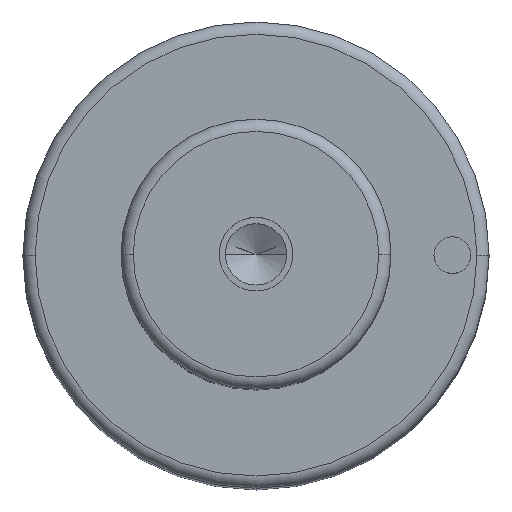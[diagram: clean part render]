
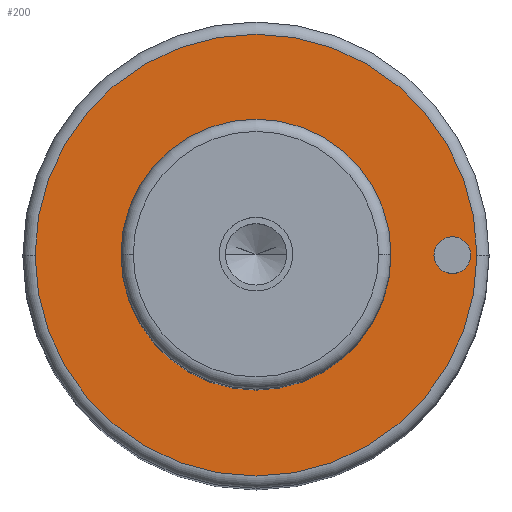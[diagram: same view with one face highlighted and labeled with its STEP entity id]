
A CAD part, top view. The second image highlights one B-rep face of the part: STEP entity #200.
In plain terms, the highlighted planar face has unit normal (0, 0, 1).
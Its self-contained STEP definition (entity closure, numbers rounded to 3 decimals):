
#99=PLANE('',#596);
#107=FACE_BOUND('',#265,.T.);
#108=FACE_BOUND('',#266,.T.);
#109=FACE_BOUND('',#267,.T.);
#200=ADVANCED_FACE('',(#107,#108,#109),#99,.T.);
#265=EDGE_LOOP('',(#359,#360));
#266=EDGE_LOOP('',(#361,#362));
#267=EDGE_LOOP('',(#363,#364));
#359=ORIENTED_EDGE('',*,*,#460,.F.);
#360=ORIENTED_EDGE('',*,*,#461,.F.);
#361=ORIENTED_EDGE('',*,*,#485,.F.);
#362=ORIENTED_EDGE('',*,*,#486,.F.);
#363=ORIENTED_EDGE('',*,*,#456,.T.);
#364=ORIENTED_EDGE('',*,*,#454,.T.);
#411=VERTEX_POINT('',#808);
#412=VERTEX_POINT('',#810);
#413=VERTEX_POINT('',#816);
#416=VERTEX_POINT('',#821);
#430=VERTEX_POINT('',#875);
#431=VERTEX_POINT('',#876);
#454=EDGE_CURVE('',#412,#411,#513,.T.);
#456=EDGE_CURVE('',#411,#412,#514,.T.);
#460=EDGE_CURVE('',#416,#413,#518,.T.);
#461=EDGE_CURVE('',#413,#416,#519,.T.);
#485=EDGE_CURVE('',#430,#431,#533,.T.);
#486=EDGE_CURVE('',#431,#430,#534,.T.);
#513=CIRCLE('',#558,11.);
#514=CIRCLE('',#560,11.);
#518=CIRCLE('',#565,18.);
#519=CIRCLE('',#567,18.);
#533=CIRCLE('',#594,1.5);
#534=CIRCLE('',#595,1.5);
#558=AXIS2_PLACEMENT_3D('',#809,#647,#648);
#560=AXIS2_PLACEMENT_3D('',#813,#652,#653);
#565=AXIS2_PLACEMENT_3D('',#822,#662,#663);
#567=AXIS2_PLACEMENT_3D('',#824,#666,#667);
#594=AXIS2_PLACEMENT_3D('',#874,#730,#731);
#595=AXIS2_PLACEMENT_3D('',#877,#732,#733);
#596=AXIS2_PLACEMENT_3D('',#878,#734,#735);
#647=DIRECTION('',(0.,0.,-1.));
#648=DIRECTION('',(0.,1.,0.));
#652=DIRECTION('',(0.,0.,-1.));
#653=DIRECTION('',(0.,-1.,0.));
#662=DIRECTION('',(0.,0.,-1.));
#663=DIRECTION('',(0.,1.,0.));
#666=DIRECTION('',(0.,0.,-1.));
#667=DIRECTION('',(0.,-1.,0.));
#730=DIRECTION('',(0.,0.,1.));
#731=DIRECTION('',(0.,1.,0.));
#732=DIRECTION('',(0.,0.,1.));
#733=DIRECTION('',(0.,-1.,0.));
#734=DIRECTION('',(0.,0.,1.));
#735=DIRECTION('',(0.,-1.,0.));
#808=CARTESIAN_POINT('',(-11.,0.,79.));
#809=CARTESIAN_POINT('',(0.,0.,79.));
#810=CARTESIAN_POINT('',(11.,0.,79.));
#813=CARTESIAN_POINT('',(0.,0.,79.));
#816=CARTESIAN_POINT('',(-18.,0.,79.));
#821=CARTESIAN_POINT('',(18.,0.,79.));
#822=CARTESIAN_POINT('',(0.,0.,79.));
#824=CARTESIAN_POINT('',(0.,0.,79.));
#874=CARTESIAN_POINT('',(16.,0.,79.));
#875=CARTESIAN_POINT('',(14.5,0.,79.));
#876=CARTESIAN_POINT('',(17.5,0.,79.));
#877=CARTESIAN_POINT('',(16.,0.,79.));
#878=CARTESIAN_POINT('',(0.,0.,79.));
